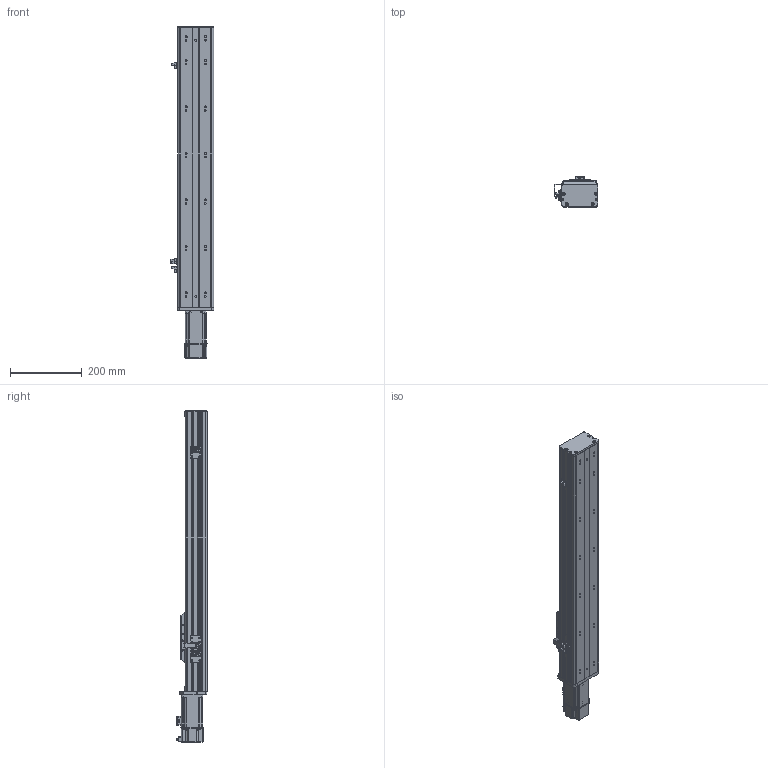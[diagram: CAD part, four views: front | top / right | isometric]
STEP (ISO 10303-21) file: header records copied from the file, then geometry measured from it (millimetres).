
FILE_DESCRIPTION (( 'STEP AP203' ), '1' );
FILE_NAME ('BOSW100-550-1610-1P-CM-M400W-O-S3（方程式2016）.step', '2020-10-10T06:33:41', ( '' ), ( '' ), 'SwSTEP 2.0', 'SolidWorks 2016', '' );
FILE_SCHEMA (( 'CONFIG_CONTROL_DESIGN' ));
Length unit declared in the file: millimetre
Products named in the file (13): 放大器内置U型微型光电传感器PM-L65; 新结构AIMSW-100-1P-宽&高轨共用-滑动座上组件; BOSW-100-1P-CM-宽轨-侧板-550客户图纸; S400W(SMA-L040); BOSW100-550-1610-1P-CM-M400W-O-S3（方程式2016）; 俋境嫖覜嘐隅啣; BOSW-100-1P-CM-550諦誧芞; BOSW&TW-100-1P-賑雄釱欶; BOSW&TW-100-俋离覜茼え; BOSW&TW-100-詩湍揤沭(陔賦凳); BOSW-100-CM-宽轨-三菱M200W&400W马达板(新结构); BOSW-100-1P-CM-宽轨-钢带-550客户图纸; BOSW-100-綴裔啣
Assembly tree (18 placements, depth 2):
  BOSW100-550-1610-1P-CM-M400W-O-S3（方程式2016）
    BOSW-100-1P-CM-550諦誧芞
    BOSW-100-綴裔啣
    新结构AIMSW-100-1P-宽&高轨共用-滑动座上组件
    S400W(SMA-L040)
    BOSW&TW-100-詩湍揤沭(陔賦凳)  x2
    BOSW&TW-100-1P-賑雄釱欶
    BOSW&TW-100-俋离覜茼え
    俋境嫖覜嘐隅啣  x3
    放大器内置U型微型光电传感器PM-L65  x3
    BOSW-100-CM-宽轨-三菱M200W&400W马达板(新结构)
    BOSW-100-1P-CM-宽轨-侧板-550客户图纸  x2
    BOSW-100-1P-CM-宽轨-钢带-550客户图纸
Bounding box: 120.9 x 85.5 x 927.8 mm (x, y, z)
Volume: 1833314.6 mm3; surface area: 827421.1 mm2
Topology: 18 solids, 18 shells, 2509 faces, 6618 edges, 4221 vertices
Faces by surface type: plane 1224, cylinder 801, bspline 271, cone 165, torus 36, sphere 12
Entity records: 68632 total; most frequent: CARTESIAN_POINT 20648, ORIENTED_EDGE 9776, DIRECTION 9494, EDGE_CURVE 4888, AXIS2_PLACEMENT_3D 3384, VERTEX_POINT 3123, LINE 2726, VECTOR 2726
